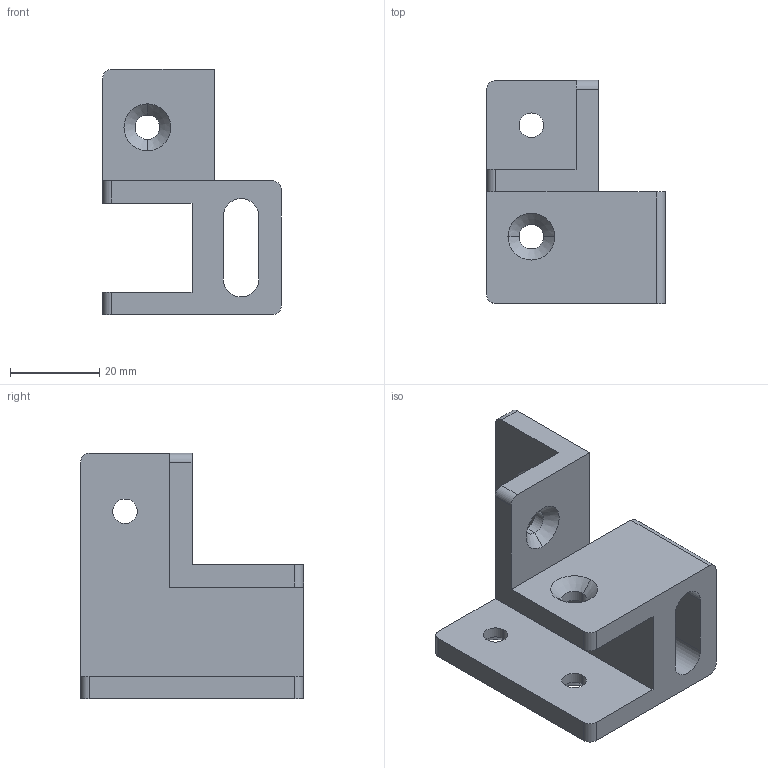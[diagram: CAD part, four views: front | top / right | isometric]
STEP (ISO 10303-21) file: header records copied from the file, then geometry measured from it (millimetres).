
FILE_DESCRIPTION (( 'STEP AP214' ), '1' );
FILE_NAME ('蟀諉璃2.STEP', '2023-05-04T09:10:44', ( 'ay' ), ( '' ), 'SwSTEP 2.0', 'SolidWorks 2020', '' );
FILE_SCHEMA (( 'AUTOMOTIVE_DESIGN' ));
Length unit declared in the file: millimetre
Products named in the file (1): 蟀諉璃2
Bounding box: 40 x 50 x 55 mm (x, y, z)
Volume: 27194.2 mm3; surface area: 12545 mm2
Topology: 1 solids, 1 shells, 52 faces, 134 edges, 84 vertices
Faces by surface type: cylinder 20, plane 19, cone 13
Entity records: 1641 total; most frequent: DIRECTION 293, CARTESIAN_POINT 271, ORIENTED_EDGE 268, EDGE_CURVE 134, AXIS2_PLACEMENT_3D 106, VERTEX_POINT 84, VECTOR 81, LINE 81
